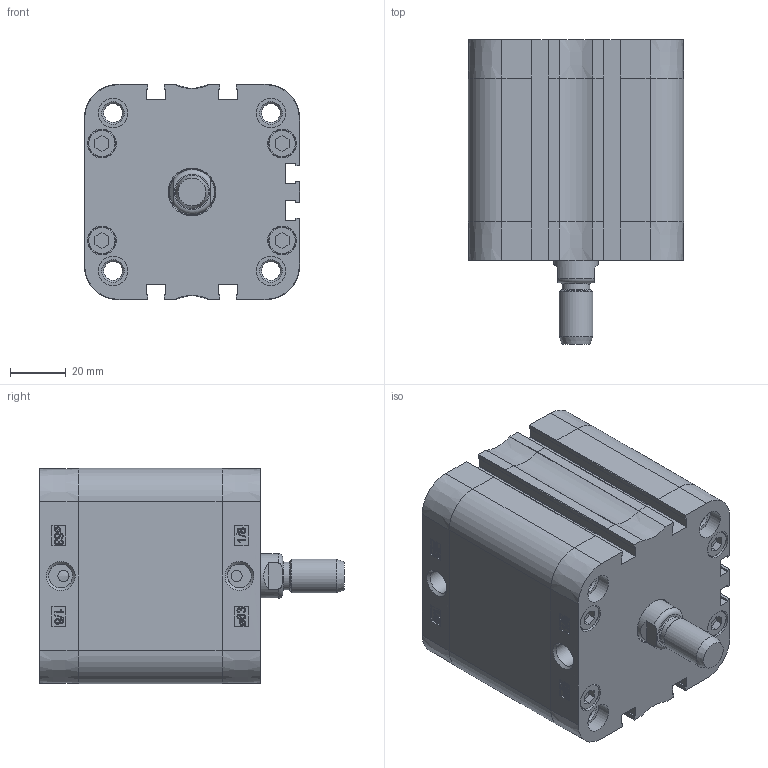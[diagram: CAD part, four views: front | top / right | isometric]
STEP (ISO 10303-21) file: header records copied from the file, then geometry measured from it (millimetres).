
FILE_DESCRIPTION((''),'2;1');
FILE_NAME('T:\Archivio Inventor\- CATALOGHI 2012\SERIE P - NUOVA\PDM\PDM063\PDM063.---.GS.M\PDM063.030.GS.M.stp','2013-02-04T09:21:27',('Administrator'),(''),'Autodesk Inventor 2012','Autodesk Inventor 2012','');
FILE_SCHEMA(('CONFIG_CONTROL_DESIGN'));
Length unit declared in the file: millimetre
Products named in the file (1): PDM063.030.GS.M
Bounding box: 77 x 109 x 77 mm (x, y, z)
Volume: 229119.2 mm3; surface area: 86697.8 mm2
Topology: 1 solids, 5 shells, 824 faces, 1993 edges, 1252 vertices
Faces by surface type: plane 346, bspline 218, cylinder 142, torus 55, cone 45, sphere 18
Full cylindrical faces by diameter (mm): 4 x2, 6.3 x4, 6.647 x8, 8.047 x4, 8.566 x2, 9.8 x8, 10 x1, 10.3 x8, 10.5 x8, 12 x2, 16 x1, 16.5 x1, 63 x1, 65.4 x1, 65.6 x1
Entity records: 27342 total; most frequent: CARTESIAN_POINT 9094, ORIENTED_EDGE 3744, DIRECTION 3031, EDGE_CURVE 1872, VERTEX_POINT 1231, AXIS2_PLACEMENT_3D 1026, EDGE_LOOP 1003, VECTOR 979
